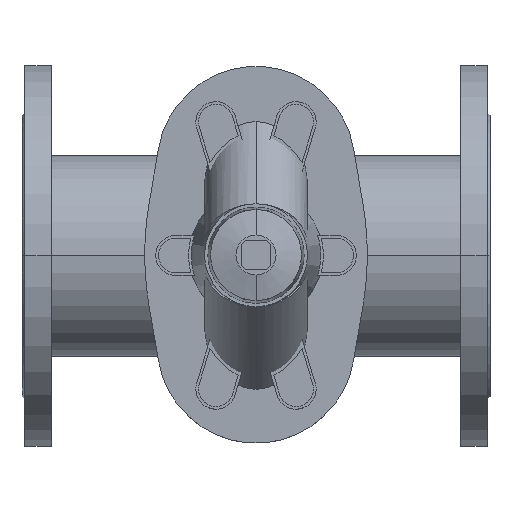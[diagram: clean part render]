
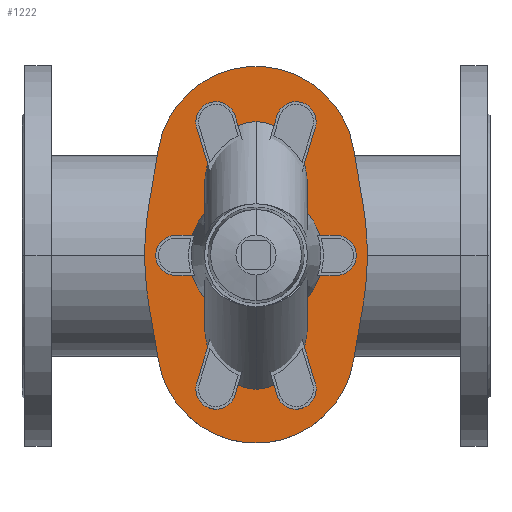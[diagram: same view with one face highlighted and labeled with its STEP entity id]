
A CAD part, top view. The second image highlights one B-rep face of the part: STEP entity #1222.
In plain terms, the highlighted planar face has unit normal (0, 0, 1).
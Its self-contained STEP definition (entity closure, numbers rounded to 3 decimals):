
#1222=ADVANCED_FACE('',(#2533),#2534,.T.);
#2533=FACE_OUTER_BOUND('',#4386,.T.);
#2534=PLANE('',#4387);
#4386=EDGE_LOOP('',(#6448,#6449,#6450,#6451,#6452,#6453,#6454,#6455,#6456,#6457,#6458));
#4387=AXIS2_PLACEMENT_3D('',#6459,#6460,#6461);
#6448=ORIENTED_EDGE('',*,*,#9942,.T.);
#6449=ORIENTED_EDGE('',*,*,#10285,.T.);
#6450=ORIENTED_EDGE('',*,*,#10286,.T.);
#6451=ORIENTED_EDGE('',*,*,#10016,.T.);
#6452=ORIENTED_EDGE('',*,*,#10287,.T.);
#6453=ORIENTED_EDGE('',*,*,#10278,.T.);
#6454=ORIENTED_EDGE('',*,*,#10075,.T.);
#6455=ORIENTED_EDGE('',*,*,#10288,.T.);
#6456=ORIENTED_EDGE('',*,*,#10289,.T.);
#6457=ORIENTED_EDGE('',*,*,#10290,.T.);
#6458=ORIENTED_EDGE('',*,*,#10039,.T.);
#6459=CARTESIAN_POINT('',(174.984,0.505,224.0));
#6460=DIRECTION('',(0.0,0.0,1.0));
#6461=DIRECTION('',(1.0,0.0,0.0));
#9942=EDGE_CURVE('',#11692,#11690,#11693,.T.);
#10016=EDGE_CURVE('',#11817,#11815,#11818,.T.);
#10039=EDGE_CURVE('',#11854,#11692,#11855,.T.);
#10075=EDGE_CURVE('',#11915,#11913,#11916,.T.);
#10278=EDGE_CURVE('',#12255,#11915,#12256,.T.);
#10285=EDGE_CURVE('',#11690,#12265,#12266,.T.);
#10286=EDGE_CURVE('',#12265,#11817,#12267,.T.);
#10287=EDGE_CURVE('',#11815,#12255,#12268,.T.);
#10288=EDGE_CURVE('',#11913,#12269,#12270,.T.);
#10289=EDGE_CURVE('',#12269,#12271,#12272,.T.);
#10290=EDGE_CURVE('',#12271,#11854,#12273,.T.);
#11690=VERTEX_POINT('',#14133);
#11692=VERTEX_POINT('',#14136);
#11693=LINE('',#14137,#14138);
#11815=VERTEX_POINT('',#14297);
#11817=VERTEX_POINT('',#14300);
#11818=LINE('',#14301,#14302);
#11854=VERTEX_POINT('',#14348);
#11855=CIRCLE('',#14349,74.);
#11913=VERTEX_POINT('',#14421);
#11915=VERTEX_POINT('',#14424);
#11916=CIRCLE('',#14425,222.828);
#12255=VERTEX_POINT('',#14863);
#12256=LINE('',#14864,#14865);
#12265=VERTEX_POINT('',#14878);
#12266=CIRCLE('',#14879,224.047);
#12267=CIRCLE('',#14880,224.047);
#12268=CIRCLE('',#14881,74.);
#12269=VERTEX_POINT('',#14882);
#12270=CIRCLE('',#14883,222.828);
#12271=VERTEX_POINT('',#14884);
#12272=CIRCLE('',#14885,222.828);
#12273=LINE('',#14886,#14887);
#14133=CARTESIAN_POINT('',(255.054,-37.205,224.0));
#14136=CARTESIAN_POINT('',(247.944,-78.845,224.0));
#14137=CARTESIAN_POINT('',(247.944,-78.845,224.0));
#14138=VECTOR('',#17018,1.0);
#14297=CARTESIAN_POINT('',(247.944,79.855,224.0));
#14300=CARTESIAN_POINT('',(255.054,38.214,224.0));
#14301=CARTESIAN_POINT('',(255.054,38.214,224.0));
#14302=VECTOR('',#17114,1.0);
#14348=CARTESIAN_POINT('',(102.056,-78.845,224.0));
#14349=AXIS2_PLACEMENT_3D('',#17143,#17144,#17145);
#14421=CARTESIAN_POINT('',(91.765,0.701,224.0));
#14424=CARTESIAN_POINT('',(94.944,38.206,224.0));
#14425=AXIS2_PLACEMENT_3D('',#17197,#17198,#17199);
#14863=CARTESIAN_POINT('',(102.056,79.855,224.0));
#14864=CARTESIAN_POINT('',(102.056,79.855,224.0));
#14865=VECTOR('',#17461,1.0);
#14878=CARTESIAN_POINT('',(258.251,0.505,224.0));
#14879=AXIS2_PLACEMENT_3D('',#17466,#17467,#17468);
#14880=AXIS2_PLACEMENT_3D('',#17469,#17470,#17471);
#14881=AXIS2_PLACEMENT_3D('',#17472,#17473,#17474);
#14882=CARTESIAN_POINT('',(91.768,-0.394,224.0));
#14883=AXIS2_PLACEMENT_3D('',#17475,#17476,#17477);
#14884=CARTESIAN_POINT('',(94.946,-37.205,224.0));
#14885=AXIS2_PLACEMENT_3D('',#17478,#17479,#17480);
#14886=CARTESIAN_POINT('',(94.946,-37.205,224.0));
#14887=VECTOR('',#17481,1.0);
#17018=DIRECTION('',(0.168,0.986,0.0));
#17114=DIRECTION('',(-0.168,0.986,0.0));
#17143=CARTESIAN_POINT('',(175.,-66.39,224.0));
#17144=DIRECTION('',(0.0,0.0,1.0));
#17145=DIRECTION('',(1.0,0.0,0.0));
#17197=CARTESIAN_POINT('',(314.593,0.701,224.0));
#17198=DIRECTION('',(0.0,0.0,1.0));
#17199=DIRECTION('',(1.0,0.0,0.0));
#17461=DIRECTION('',(-0.168,-0.986,0.0));
#17466=CARTESIAN_POINT('',(34.204,0.505,224.0));
#17467=DIRECTION('',(0.0,0.0,1.0));
#17468=DIRECTION('',(1.0,0.0,0.0));
#17469=CARTESIAN_POINT('',(34.204,0.505,224.0));
#17470=DIRECTION('',(0.0,0.0,1.0));
#17471=DIRECTION('',(1.0,0.0,0.0));
#17472=CARTESIAN_POINT('',(175.,67.4,224.0));
#17473=DIRECTION('',(0.0,0.0,1.0));
#17474=DIRECTION('',(1.0,0.0,0.0));
#17475=CARTESIAN_POINT('',(314.593,0.701,224.0));
#17476=DIRECTION('',(0.0,0.0,1.0));
#17477=DIRECTION('',(1.0,0.0,0.0));
#17478=CARTESIAN_POINT('',(314.595,0.299,224.0));
#17479=DIRECTION('',(0.0,0.0,1.0));
#17480=DIRECTION('',(1.0,0.0,0.0));
#17481=DIRECTION('',(0.168,-0.986,0.0));
